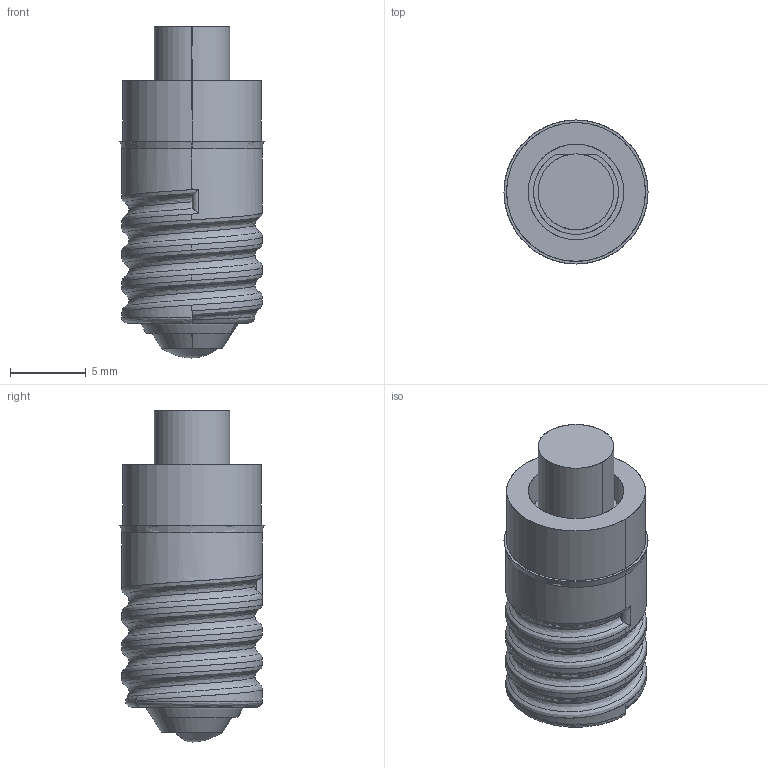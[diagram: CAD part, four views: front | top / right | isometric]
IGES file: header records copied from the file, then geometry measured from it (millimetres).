
Start section: SolidWorks IGES file using analytic representation for surfaces
Global section: file name: G:\Marl\DESIGN\Paul Robson\STEP-IGES FILES\210 Series\210 Series.IGS; native system: SolidWorks 2016; preprocessor: SolidWorks 2016; author: Paulr; date: 160803.100151; units: millimetre
Bounding box: 9.5 x 9.5 x 21.9 mm (x, y, z)
Surface area: 914.7 mm2 (no closed solid volume)
Topology: 0 solids, 0 shells, 67 faces, 1071 edges, 1069 vertices
Faces by surface type: bspline 40, revolution 27
